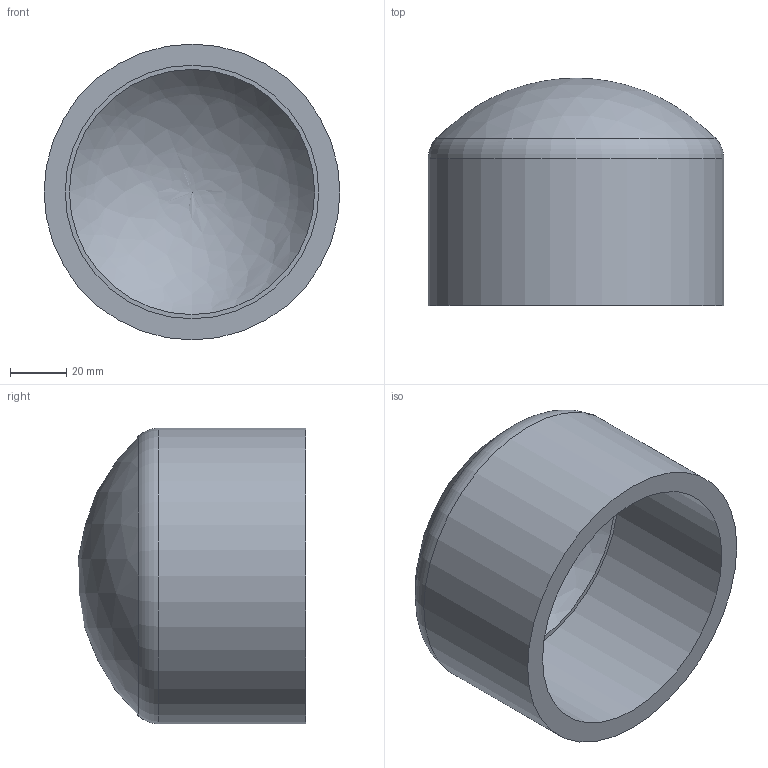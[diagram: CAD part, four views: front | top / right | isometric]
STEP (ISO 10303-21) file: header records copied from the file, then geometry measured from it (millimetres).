
FILE_DESCRIPTION(/* description */ ('PVC calotta incollaggio metrico'),/* implementation_level */ '2;1');
FILE_NAME(/* name */ 'C:\Users\POLYPIPE\Desktop\DATASET INVENTOR\LIBRERIA EFFAST\RACCORDI 3DxWEB\RDR\3D_RDRCAD\3D_RDRCAD0900.stp',/* time_stamp */ '2018-01-19T14:07:00+01:00',/* author */ ('POLYPIPE'),/* organization */ ('Polypipe Italia'),/* preprocessor_version */ 'ST-DEVELOPER v16.1',/* originating_system */ 'Autodesk Inventor 2016',/* authorisation */ '');
FILE_SCHEMA (('CONFIG_CONTROL_DESIGN'));
Length unit declared in the file: millimetre
Products named in the file (1): 3D_RDRCAD
Bounding box: 105 x 80.72 x 105 mm (x, y, z)
Volume: 203416.5 mm3; surface area: 53701.7 mm2
Topology: 1 solids, 1 shells, 7 faces, 12 edges, 8 vertices
Faces by surface type: cylinder 2, plane 2, torus 1, sphere 1, bspline 1
Full cylindrical faces by diameter (mm): 90 x1, 105 x1
Entity records: 198 total; most frequent: CARTESIAN_POINT 52, DIRECTION 28, ORIENTED_EDGE 16, AXIS2_PLACEMENT_3D 14, EDGE_LOOP 12, VERTEX_POINT 8, EDGE_CURVE 8, FACE_OUTER_BOUND 7
